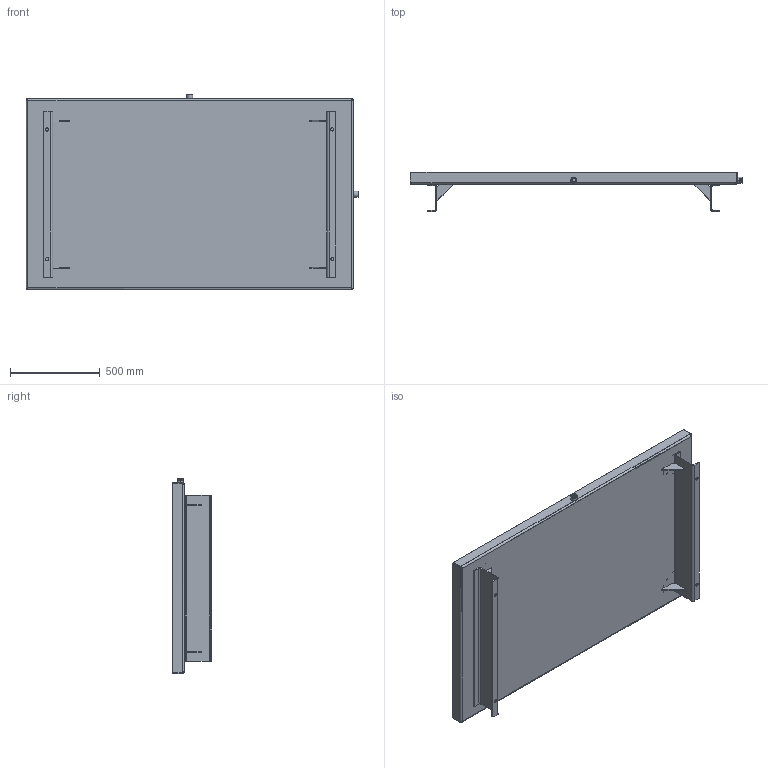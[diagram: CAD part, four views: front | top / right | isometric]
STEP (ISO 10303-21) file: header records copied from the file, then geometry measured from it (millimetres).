
FILE_DESCRIPTION (( 'STEP AP203' ), '1' );
FILE_NAME ('RJDPR120.STEP', '2015-01-08T15:48:57', ( '' ), ( '' ), 'SwSTEP 2.0', 'SolidWorks 2014', '' );
FILE_SCHEMA (( 'CONFIG_CONTROL_DESIGN' ));
Length unit declared in the file: inch
Products named in the file (1): RJDPR120
Bounding box: 1854.2 x 219.07 x 1092.2 mm (x, y, z)
Volume: 14088973 mm3; surface area: 5703973.4 mm2
Topology: 15 solids, 15 shells, 333 faces, 717 edges, 414 vertices
Faces by surface type: plane 130, cone 128, cylinder 65, bspline 10
Entity records: 9646 total; most frequent: CARTESIAN_POINT 2289, DIRECTION 1579, ORIENTED_EDGE 1434, EDGE_CURVE 717, AXIS2_PLACEMENT_3D 574, LINE 431, VECTOR 431, VERTEX_POINT 414
